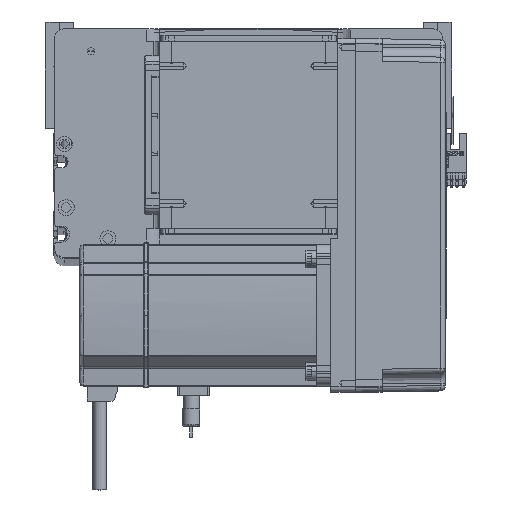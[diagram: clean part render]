
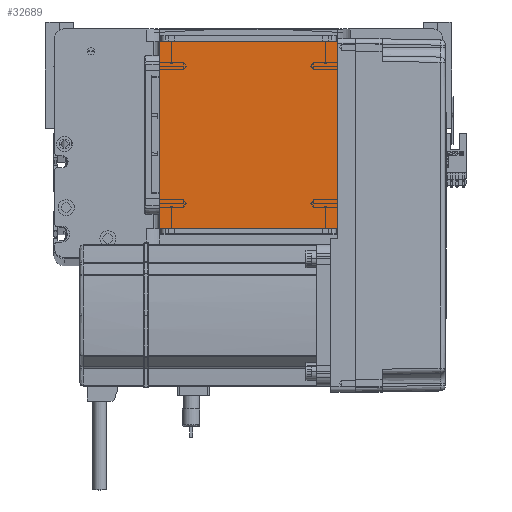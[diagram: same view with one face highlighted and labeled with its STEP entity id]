
A CAD part, top view. The second image highlights one B-rep face of the part: STEP entity #32689.
In plain terms, the highlighted planar face has unit normal (0, 0, 1).
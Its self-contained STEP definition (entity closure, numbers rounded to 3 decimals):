
#1096 = DIRECTION ( 'NONE',  ( 0., -1., 0. ) ) ;
#1890 = ORIENTED_EDGE ( 'NONE', *, *, #4584, .T. ) ;
#3917 = DIRECTION ( 'NONE',  ( 0., 1., 0. ) ) ;
#4481 = FACE_OUTER_BOUND ( 'NONE', #15142, .T. ) ;
#4584 = EDGE_CURVE ( 'NONE', #34289, #45255, #21075, .T. ) ;
#4716 = ORIENTED_EDGE ( 'NONE', *, *, #8304, .T. ) ;
#4934 = VECTOR ( 'NONE', #24532, 1000. ) ;
#5855 = LINE ( 'NONE', #28929, #37018 ) ;
#8304 = EDGE_CURVE ( 'NONE', #15186, #34289, #50147, .T. ) ;
#8587 = CARTESIAN_POINT ( 'NONE',  ( -50.5, 122., 115. ) ) ;
#9227 = EDGE_CURVE ( 'NONE', #45255, #32576, #28149, .T. ) ;
#11435 = PLANE ( 'NONE',  #34700 ) ;
#12147 = CARTESIAN_POINT ( 'NONE',  ( -50.5, 122., 115. ) ) ;
#13121 = VECTOR ( 'NONE', #1096, 1000. ) ;
#13181 = EDGE_CURVE ( 'NONE', #32576, #15186, #5855, .T. ) ;
#14436 = ORIENTED_EDGE ( 'NONE', *, *, #9227, .T. ) ;
#14462 = CARTESIAN_POINT ( 'NONE',  ( -50.5, 16., 115. ) ) ;
#14765 = CARTESIAN_POINT ( 'NONE',  ( 50.5, 16., 115. ) ) ;
#15142 = EDGE_LOOP ( 'NONE', ( #1890, #14436, #15333, #4716 ) ) ;
#15186 = VERTEX_POINT ( 'NONE', #43350 ) ;
#15333 = ORIENTED_EDGE ( 'NONE', *, *, #13181, .T. ) ;
#16273 = DIRECTION ( 'NONE',  ( 0., 0., 1. ) ) ;
#21075 = LINE ( 'NONE', #43885, #13121 ) ;
#24532 = DIRECTION ( 'NONE',  ( 1., 0., 0. ) ) ;
#28149 = LINE ( 'NONE', #37838, #4934 ) ;
#28688 = CARTESIAN_POINT ( 'NONE',  ( 0., 0., 115. ) ) ;
#28929 = CARTESIAN_POINT ( 'NONE',  ( 50.5, 122., 115. ) ) ;
#30141 = DIRECTION ( 'NONE',  ( -1., 0., 0. ) ) ;
#32576 = VERTEX_POINT ( 'NONE', #14765 ) ;
#32689 = ADVANCED_FACE ( 'NONE', ( #4481 ), #11435, .T. ) ;
#34289 = VERTEX_POINT ( 'NONE', #8587 ) ;
#34700 = AXIS2_PLACEMENT_3D ( 'NONE', #28688, #16273, #36652 ) ;
#36652 = DIRECTION ( 'NONE',  ( 1., 0., 0. ) ) ;
#37018 = VECTOR ( 'NONE', #3917, 1000. ) ;
#37838 = CARTESIAN_POINT ( 'NONE',  ( -50.5, 16., 115. ) ) ;
#43350 = CARTESIAN_POINT ( 'NONE',  ( 50.5, 122., 115. ) ) ;
#43885 = CARTESIAN_POINT ( 'NONE',  ( -50.5, 122., 115. ) ) ;
#45255 = VERTEX_POINT ( 'NONE', #14462 ) ;
#46163 = VECTOR ( 'NONE', #30141, 1000. ) ;
#50147 = LINE ( 'NONE', #12147, #46163 ) ;
